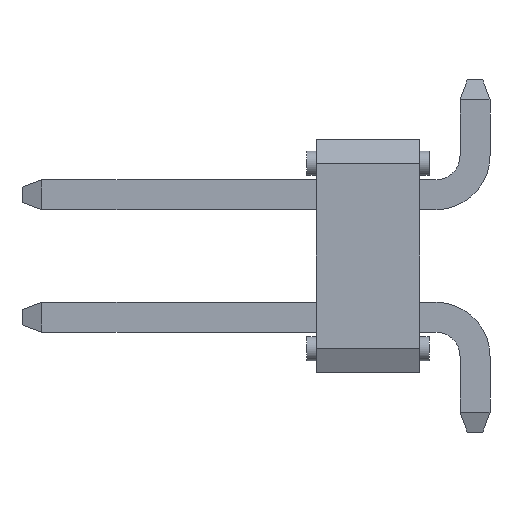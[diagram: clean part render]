
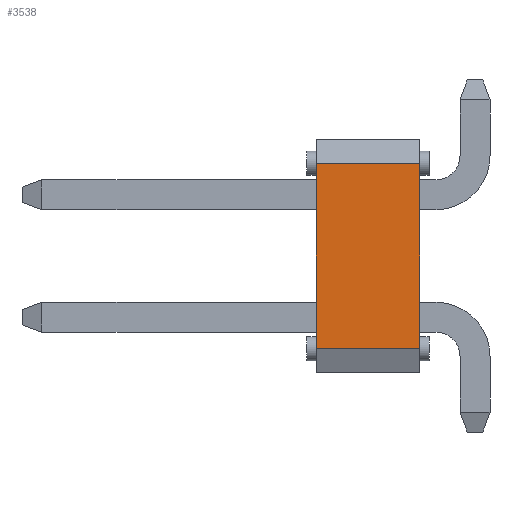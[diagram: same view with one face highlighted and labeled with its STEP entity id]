
A CAD part, left-side view. The second image highlights one B-rep face of the part: STEP entity #3538.
In plain terms, the highlighted planar face has unit normal (-1, 0, 0).
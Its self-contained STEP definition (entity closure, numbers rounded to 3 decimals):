
#131 = EDGE_CURVE ( 'NONE', #2146, #1852, #2217, .T. ) ;
#164 = DIRECTION ( 'NONE',  ( 0., 0., 1. ) ) ;
#403 = DIRECTION ( 'NONE',  ( 0., 1., 0. ) ) ;
#484 = PLANE ( 'NONE',  #4550 ) ;
#933 = CARTESIAN_POINT ( 'NONE',  ( -5.08, 1.46, 1.915 ) ) ;
#1320 = ORIENTED_EDGE ( 'NONE', *, *, #131, .T. ) ;
#1567 = VECTOR ( 'NONE', #164, 1000. ) ;
#1672 = DIRECTION ( 'NONE',  ( 0., 0., -1. ) ) ;
#1852 = VERTEX_POINT ( 'NONE', #2481 ) ;
#2017 = VECTOR ( 'NONE', #403, 1000. ) ;
#2058 = ORIENTED_EDGE ( 'NONE', *, *, #4345, .F. ) ;
#2146 = VERTEX_POINT ( 'NONE', #933 ) ;
#2217 = LINE ( 'NONE', #2515, #3181 ) ;
#2249 = ORIENTED_EDGE ( 'NONE', *, *, #3049, .F. ) ;
#2472 = CARTESIAN_POINT ( 'NONE',  ( -5.08, 3.6, 2.415 ) ) ;
#2481 = CARTESIAN_POINT ( 'NONE',  ( -5.08, 3.6, 1.915 ) ) ;
#2492 = VERTEX_POINT ( 'NONE', #4720 ) ;
#2500 = DIRECTION ( 'NONE',  ( 1., 0., 0. ) ) ;
#2515 = CARTESIAN_POINT ( 'NONE',  ( -5.08, 1.46, 1.915 ) ) ;
#2563 = VERTEX_POINT ( 'NONE', #3739 ) ;
#2622 = ORIENTED_EDGE ( 'NONE', *, *, #4372, .T. ) ;
#2774 = CARTESIAN_POINT ( 'NONE',  ( -5.08, 3.6, 2.415 ) ) ;
#2810 = EDGE_LOOP ( 'NONE', ( #2622, #1320, #2058, #2249 ) ) ;
#3049 = EDGE_CURVE ( 'NONE', #2563, #2492, #3457, .T. ) ;
#3181 = VECTOR ( 'NONE', #4841, 1000. ) ;
#3325 = VECTOR ( 'NONE', #4303, 1000. ) ;
#3457 = LINE ( 'NONE', #3826, #2017 ) ;
#3513 = LINE ( 'NONE', #4324, #1567 ) ;
#3538 = ADVANCED_FACE ( 'NONE', ( #4361 ), #484, .F. ) ;
#3739 = CARTESIAN_POINT ( 'NONE',  ( -5.08, 1.46, -1.915 ) ) ;
#3826 = CARTESIAN_POINT ( 'NONE',  ( -5.08, 1.46, -1.915 ) ) ;
#4281 = LINE ( 'NONE', #2774, #3325 ) ;
#4303 = DIRECTION ( 'NONE',  ( 0., 0., 1. ) ) ;
#4324 = CARTESIAN_POINT ( 'NONE',  ( -5.08, 1.46, 2.415 ) ) ;
#4345 = EDGE_CURVE ( 'NONE', #2492, #1852, #4281, .T. ) ;
#4361 = FACE_OUTER_BOUND ( 'NONE', #2810, .T. ) ;
#4372 = EDGE_CURVE ( 'NONE', #2563, #2146, #3513, .T. ) ;
#4550 = AXIS2_PLACEMENT_3D ( 'NONE', #2472, #2500, #1672 ) ;
#4720 = CARTESIAN_POINT ( 'NONE',  ( -5.08, 3.6, -1.915 ) ) ;
#4841 = DIRECTION ( 'NONE',  ( 0., 1., 0. ) ) ;
